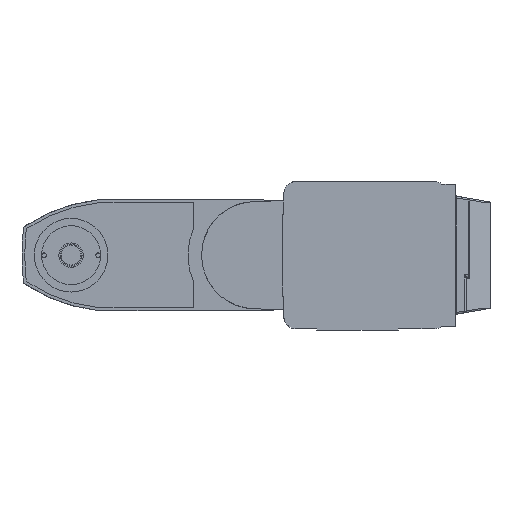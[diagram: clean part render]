
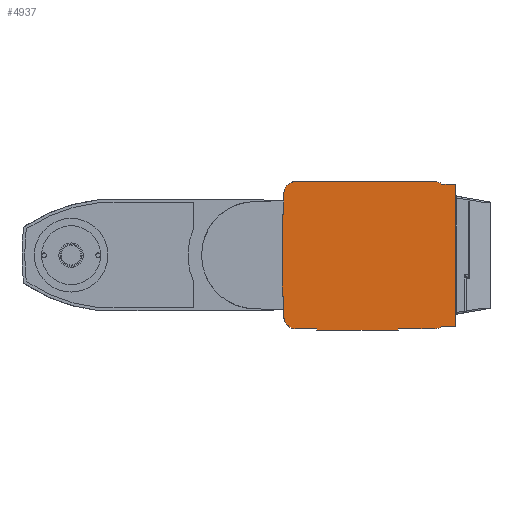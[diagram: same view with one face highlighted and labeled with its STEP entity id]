
A CAD part, front view. The second image highlights one B-rep face of the part: STEP entity #4937.
In plain terms, the highlighted planar face has unit normal (0, -1, 0).
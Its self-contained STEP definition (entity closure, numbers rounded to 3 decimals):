
#67=DIRECTION('',(1.,0.,0.));
#68=VECTOR('',#67,17.);
#69=CARTESIAN_POINT('',(103.,0.,-87.));
#70=LINE('',#69,#68);
#438=DIRECTION('',(0.,0.,-1.));
#439=VECTOR('',#438,174.);
#440=CARTESIAN_POINT('',(120.,0.,87.));
#441=LINE('',#440,#439);
#442=CARTESIAN_POINT('',(94.,0.,-75.));
#443=DIRECTION('',(0.,1.,0.));
#444=DIRECTION('',(0.6,0.,-0.8));
#445=AXIS2_PLACEMENT_3D('',#442,#443,#444);
#447=DIRECTION('',(-1.,0.,0.));
#448=VECTOR('',#447,44.);
#449=CARTESIAN_POINT('',(94.,0.,-90.));
#450=LINE('',#449,#448);
#451=DIRECTION('',(0.,0.,-1.));
#452=VECTOR('',#451,2.);
#453=CARTESIAN_POINT('',(50.,0.,-90.));
#454=LINE('',#453,#452);
#455=DIRECTION('',(-1.,0.,0.));
#456=VECTOR('',#455,100.);
#457=CARTESIAN_POINT('',(50.,0.,-92.));
#458=LINE('',#457,#456);
#459=DIRECTION('',(0.,0.,1.));
#460=VECTOR('',#459,2.);
#461=CARTESIAN_POINT('',(-50.,0.,-92.));
#462=LINE('',#461,#460);
#463=CARTESIAN_POINT('',(-75.,0.,-75.));
#464=DIRECTION('',(0.,1.,0.));
#465=DIRECTION('',(0.,0.,-1.));
#466=AXIS2_PLACEMENT_3D('',#463,#464,#465);
#468=DIRECTION('',(-1.,0.,0.));
#469=VECTOR('',#468,2.);
#470=CARTESIAN_POINT('',(-90.,0.,-50.));
#471=LINE('',#470,#469);
#472=DIRECTION('',(0.,0.,1.));
#473=VECTOR('',#472,100.);
#474=CARTESIAN_POINT('',(-92.,0.,-50.));
#475=LINE('',#474,#473);
#476=DIRECTION('',(1.,0.,0.));
#477=VECTOR('',#476,2.);
#478=CARTESIAN_POINT('',(-92.,0.,50.));
#479=LINE('',#478,#477);
#480=CARTESIAN_POINT('',(-75.,0.,75.));
#481=DIRECTION('',(0.,1.,0.));
#482=DIRECTION('',(-1.,0.,0.));
#483=AXIS2_PLACEMENT_3D('',#480,#481,#482);
#485=DIRECTION('',(1.,0.,0.));
#486=VECTOR('',#485,169.);
#487=CARTESIAN_POINT('',(-75.,0.,90.));
#488=LINE('',#487,#486);
#489=CARTESIAN_POINT('',(94.,0.,75.));
#490=DIRECTION('',(0.,1.,0.));
#491=DIRECTION('',(0.,0.,1.));
#492=AXIS2_PLACEMENT_3D('',#489,#490,#491);
#521=DIRECTION('',(-1.,0.,0.));
#522=VECTOR('',#521,17.);
#523=CARTESIAN_POINT('',(120.,0.,87.));
#524=LINE('',#523,#522);
#807=DIRECTION('',(0.,0.,-1.));
#808=VECTOR('',#807,25.);
#809=CARTESIAN_POINT('',(-90.,0.,75.));
#810=LINE('',#809,#808);
#914=DIRECTION('',(1.,0.,0.));
#915=VECTOR('',#914,25.);
#916=CARTESIAN_POINT('',(-75.,0.,-90.));
#917=LINE('',#916,#915);
#930=DIRECTION('',(0.,0.,-1.));
#931=VECTOR('',#930,25.);
#932=CARTESIAN_POINT('',(-90.,0.,-50.));
#933=LINE('',#932,#931);
#3072=CARTESIAN_POINT('',(103.,0.,-87.));
#3073=VERTEX_POINT('',#3072);
#3074=CARTESIAN_POINT('',(120.,0.,-87.));
#3075=VERTEX_POINT('',#3074);
#3126=CARTESIAN_POINT('',(120.,0.,87.));
#3127=VERTEX_POINT('',#3126);
#3481=CARTESIAN_POINT('',(50.,0.,-92.));
#3482=VERTEX_POINT('',#3481);
#3483=CARTESIAN_POINT('',(-50.,0.,-92.));
#3484=VERTEX_POINT('',#3483);
#3485=CARTESIAN_POINT('',(50.,0.,-90.));
#3486=VERTEX_POINT('',#3485);
#3487=CARTESIAN_POINT('',(-50.,0.,-90.));
#3488=VERTEX_POINT('',#3487);
#3489=CARTESIAN_POINT('',(-75.,0.,-90.));
#3490=VERTEX_POINT('',#3489);
#3491=CARTESIAN_POINT('',(94.,0.,-90.));
#3492=VERTEX_POINT('',#3491);
#3493=CARTESIAN_POINT('',(103.,0.,87.));
#3494=VERTEX_POINT('',#3493);
#3495=CARTESIAN_POINT('',(-90.,0.,-75.));
#3496=VERTEX_POINT('',#3495);
#3497=CARTESIAN_POINT('',(-90.,0.,-50.));
#3498=VERTEX_POINT('',#3497);
#3499=CARTESIAN_POINT('',(-92.,0.,-50.));
#3500=VERTEX_POINT('',#3499);
#3501=CARTESIAN_POINT('',(-92.,0.,50.));
#3502=VERTEX_POINT('',#3501);
#3503=CARTESIAN_POINT('',(-90.,0.,50.));
#3504=VERTEX_POINT('',#3503);
#3505=CARTESIAN_POINT('',(-90.,0.,75.));
#3506=VERTEX_POINT('',#3505);
#3507=CARTESIAN_POINT('',(-75.,0.,90.));
#3508=VERTEX_POINT('',#3507);
#3509=CARTESIAN_POINT('',(94.,0.,90.));
#3510=VERTEX_POINT('',#3509);
#4896=CARTESIAN_POINT('',(0.,0.,0.));
#4897=DIRECTION('',(0.,1.,0.));
#4898=DIRECTION('',(1.,0.,0.));
#4899=AXIS2_PLACEMENT_3D('',#4896,#4897,#4898);
#4900=PLANE('',#4899);
#4902=ORIENTED_EDGE('',*,*,#4901,.F.);
#4903=ORIENTED_EDGE('',*,*,#4816,.T.);
#4904=ORIENTED_EDGE('',*,*,#3701,.F.);
#4906=ORIENTED_EDGE('',*,*,#4905,.T.);
#4908=ORIENTED_EDGE('',*,*,#4907,.T.);
#4910=ORIENTED_EDGE('',*,*,#4909,.T.);
#4912=ORIENTED_EDGE('',*,*,#4911,.T.);
#4914=ORIENTED_EDGE('',*,*,#4913,.T.);
#4916=ORIENTED_EDGE('',*,*,#4915,.F.);
#4918=ORIENTED_EDGE('',*,*,#4917,.T.);
#4920=ORIENTED_EDGE('',*,*,#4919,.F.);
#4922=ORIENTED_EDGE('',*,*,#4921,.T.);
#4924=ORIENTED_EDGE('',*,*,#4923,.T.);
#4926=ORIENTED_EDGE('',*,*,#4925,.T.);
#4928=ORIENTED_EDGE('',*,*,#4927,.F.);
#4930=ORIENTED_EDGE('',*,*,#4929,.T.);
#4932=ORIENTED_EDGE('',*,*,#4931,.T.);
#4934=ORIENTED_EDGE('',*,*,#4933,.T.);
#4935=EDGE_LOOP('',(#4902,#4903,#4904,#4906,#4908,#4910,#4912,#4914,#4916,#4918,
#4920,#4922,#4924,#4926,#4928,#4930,#4932,#4934));
#4936=FACE_OUTER_BOUND('',#4935,.F.);
#4937=ADVANCED_FACE('',(#4936),#4900,.F.);
#446=CIRCLE('',#445,15.);
#467=CIRCLE('',#466,15.);
#484=CIRCLE('',#483,15.);
#493=CIRCLE('',#492,15.);
#3701=EDGE_CURVE('',#3073,#3075,#70,.T.);
#4816=EDGE_CURVE('',#3127,#3075,#441,.T.);
#4901=EDGE_CURVE('',#3127,#3494,#524,.T.);
#4905=EDGE_CURVE('',#3073,#3492,#446,.T.);
#4907=EDGE_CURVE('',#3492,#3486,#450,.T.);
#4909=EDGE_CURVE('',#3486,#3482,#454,.T.);
#4911=EDGE_CURVE('',#3482,#3484,#458,.T.);
#4913=EDGE_CURVE('',#3484,#3488,#462,.T.);
#4915=EDGE_CURVE('',#3490,#3488,#917,.T.);
#4917=EDGE_CURVE('',#3490,#3496,#467,.T.);
#4919=EDGE_CURVE('',#3498,#3496,#933,.T.);
#4921=EDGE_CURVE('',#3498,#3500,#471,.T.);
#4923=EDGE_CURVE('',#3500,#3502,#475,.T.);
#4925=EDGE_CURVE('',#3502,#3504,#479,.T.);
#4927=EDGE_CURVE('',#3506,#3504,#810,.T.);
#4929=EDGE_CURVE('',#3506,#3508,#484,.T.);
#4931=EDGE_CURVE('',#3508,#3510,#488,.T.);
#4933=EDGE_CURVE('',#3510,#3494,#493,.T.);
